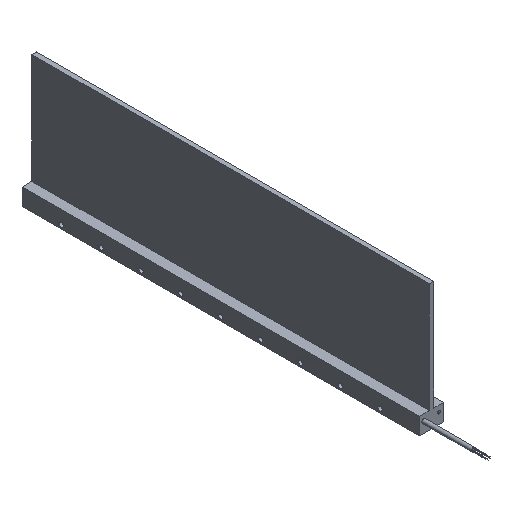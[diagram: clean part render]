
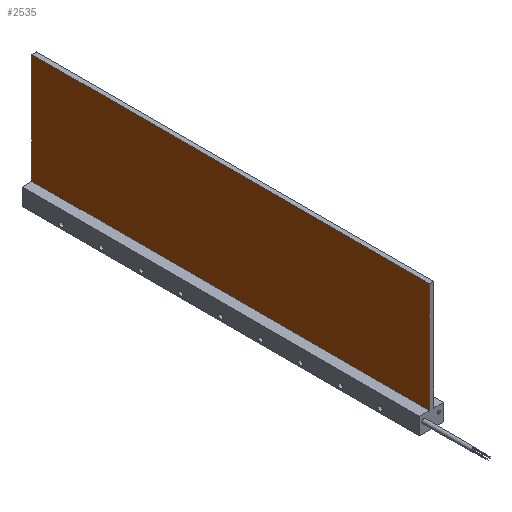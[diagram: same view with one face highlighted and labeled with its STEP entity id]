
A CAD part, isometric view. The second image highlights one B-rep face of the part: STEP entity #2535.
In plain terms, the highlighted planar face has unit normal (-1, 0, 0).
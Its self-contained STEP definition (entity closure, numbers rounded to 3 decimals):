
#21=DIRECTION('',(0.,0.,1.));
#22=VECTOR('',#21,110.3);
#23=CARTESIAN_POINT('',(-2.2,-199.4,0.));
#24=LINE('',#23,#22);
#71=DIRECTION('',(0.,1.,0.));
#72=VECTOR('',#71,398.8);
#73=CARTESIAN_POINT('',(-2.2,-199.4,110.3));
#74=LINE('',#73,#72);
#75=DIRECTION('',(0.,1.,0.));
#76=VECTOR('',#75,398.8);
#77=CARTESIAN_POINT('',(-2.2,-199.4,0.));
#78=LINE('',#77,#76);
#487=DIRECTION('',(0.,0.,1.));
#488=VECTOR('',#487,110.3);
#489=CARTESIAN_POINT('',(-2.2,199.4,0.));
#490=LINE('',#489,#488);
#1911=CARTESIAN_POINT('',(-2.2,-199.4,0.));
#1912=VERTEX_POINT('',#1911);
#1913=CARTESIAN_POINT('',(-2.2,-199.4,110.3));
#1914=VERTEX_POINT('',#1913);
#1927=CARTESIAN_POINT('',(-2.2,199.4,0.));
#1928=VERTEX_POINT('',#1927);
#1929=CARTESIAN_POINT('',(-2.2,199.4,110.3));
#1930=VERTEX_POINT('',#1929);
#2522=CARTESIAN_POINT('',(-2.2,-199.4,0.));
#2523=DIRECTION('',(-1.,0.,0.));
#2524=DIRECTION('',(0.,0.,1.));
#2525=AXIS2_PLACEMENT_3D('',#2522,#2523,#2524);
#2526=PLANE('',#2525);
#2527=ORIENTED_EDGE('',*,*,#2452,.F.);
#2529=ORIENTED_EDGE('',*,*,#2528,.T.);
#2531=ORIENTED_EDGE('',*,*,#2530,.T.);
#2532=ORIENTED_EDGE('',*,*,#2514,.F.);
#2533=EDGE_LOOP('',(#2527,#2529,#2531,#2532));
#2534=FACE_OUTER_BOUND('',#2533,.F.);
#2535=ADVANCED_FACE('',(#2534),#2526,.T.);
#2452=EDGE_CURVE('',#1912,#1914,#24,.T.);
#2514=EDGE_CURVE('',#1914,#1930,#74,.T.);
#2528=EDGE_CURVE('',#1912,#1928,#78,.T.);
#2530=EDGE_CURVE('',#1928,#1930,#490,.T.);
